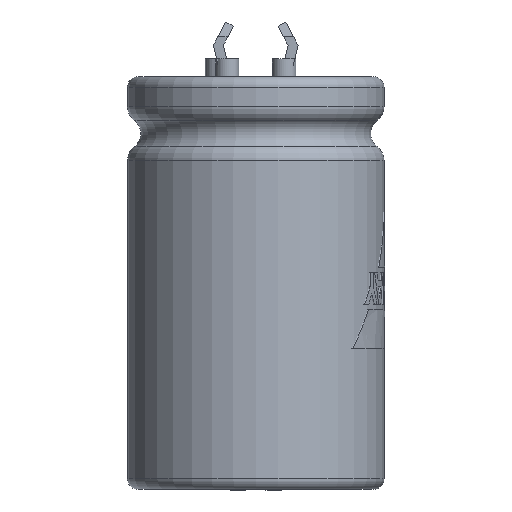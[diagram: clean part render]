
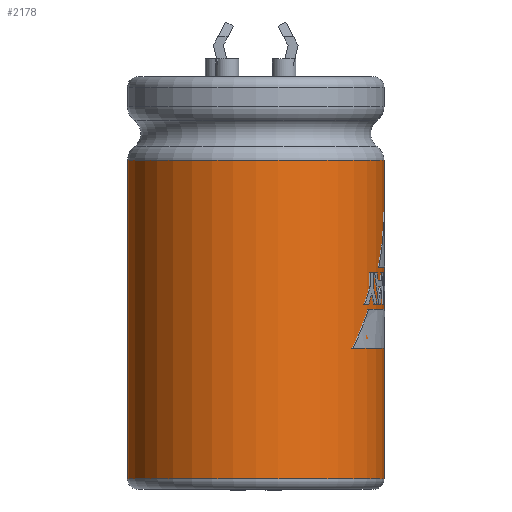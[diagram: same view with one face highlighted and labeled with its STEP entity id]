
A CAD part, left-side view. The second image highlights one B-rep face of the part: STEP entity #2178.
In plain terms, the highlighted cylindrical face has radius 11.5 mm (diameter 23 mm), a full revolution.
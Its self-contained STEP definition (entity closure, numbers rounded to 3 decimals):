
#2110 = TOROIDAL_SURFACE('',#2111,10.,1.5);
#2111 = AXIS2_PLACEMENT_3D('',#2112,#2113,#2114);
#2112 = CARTESIAN_POINT('',(0.,0.,-6.55));
#2113 = DIRECTION('',(0.,0.,1.));
#2114 = DIRECTION('',(1.,0.,0.));
#2126 = EDGE_CURVE('',#2127,#2127,#2129,.T.);
#2127 = VERTEX_POINT('',#2128);
#2128 = CARTESIAN_POINT('',(11.5,0.,-6.55));
#2129 = SURFACE_CURVE('',#2130,(#2135,#2142),.PCURVE_S1.);
#2130 = CIRCLE('',#2131,11.5);
#2131 = AXIS2_PLACEMENT_3D('',#2132,#2133,#2134);
#2132 = CARTESIAN_POINT('',(0.,0.,-6.55));
#2133 = DIRECTION('',(0.,0.,1.));
#2134 = DIRECTION('',(1.,0.,0.));
#2135 = PCURVE('',#2110,#2136);
#2136 = DEFINITIONAL_REPRESENTATION('',(#2137),#2141);
#2137 = LINE('',#2138,#2139);
#2138 = CARTESIAN_POINT('',(0.,6.283));
#2139 = VECTOR('',#2140,1.);
#2140 = DIRECTION('',(1.,0.));
#2141 = ( GEOMETRIC_REPRESENTATION_CONTEXT(2) 
PARAMETRIC_REPRESENTATION_CONTEXT() REPRESENTATION_CONTEXT('2D SPACE',''
  ) );
#2142 = PCURVE('',#2143,#2148);
#2143 = CYLINDRICAL_SURFACE('',#2144,11.5);
#2144 = AXIS2_PLACEMENT_3D('',#2145,#2146,#2147);
#2145 = CARTESIAN_POINT('',(0.,0.,-35.1));
#2146 = DIRECTION('',(0.,0.,1.));
#2147 = DIRECTION('',(1.,0.,0.));
#2148 = DEFINITIONAL_REPRESENTATION('',(#2149),#2153);
#2149 = LINE('',#2150,#2151);
#2150 = CARTESIAN_POINT('',(0.,28.55));
#2151 = VECTOR('',#2152,1.);
#2152 = DIRECTION('',(1.,0.));
#2153 = ( GEOMETRIC_REPRESENTATION_CONTEXT(2) 
PARAMETRIC_REPRESENTATION_CONTEXT() REPRESENTATION_CONTEXT('2D SPACE',''
  ) );
#2178 = ADVANCED_FACE('',(#2179),#2143,.T.);
#2179 = FACE_BOUND('',#2180,.T.);
#2180 = EDGE_LOOP('',(#2181,#2210,#2231,#2232));
#2181 = ORIENTED_EDGE('',*,*,#2182,.T.);
#2182 = EDGE_CURVE('',#2183,#2183,#2185,.T.);
#2183 = VERTEX_POINT('',#2184);
#2184 = CARTESIAN_POINT('',(11.5,0.,-35.1));
#2185 = SURFACE_CURVE('',#2186,(#2191,#2198),.PCURVE_S1.);
#2186 = CIRCLE('',#2187,11.5);
#2187 = AXIS2_PLACEMENT_3D('',#2188,#2189,#2190);
#2188 = CARTESIAN_POINT('',(0.,0.,-35.1));
#2189 = DIRECTION('',(0.,0.,1.));
#2190 = DIRECTION('',(1.,0.,0.));
#2191 = PCURVE('',#2143,#2192);
#2192 = DEFINITIONAL_REPRESENTATION('',(#2193),#2197);
#2193 = LINE('',#2194,#2195);
#2194 = CARTESIAN_POINT('',(0.,0.));
#2195 = VECTOR('',#2196,1.);
#2196 = DIRECTION('',(1.,0.));
#2197 = ( GEOMETRIC_REPRESENTATION_CONTEXT(2) 
PARAMETRIC_REPRESENTATION_CONTEXT() REPRESENTATION_CONTEXT('2D SPACE',''
  ) );
#2198 = PCURVE('',#2199,#2204);
#2199 = TOROIDAL_SURFACE('',#2200,10.55,0.95);
#2200 = AXIS2_PLACEMENT_3D('',#2201,#2202,#2203);
#2201 = CARTESIAN_POINT('',(0.,0.,-35.1));
#2202 = DIRECTION('',(0.,0.,1.));
#2203 = DIRECTION('',(1.,0.,0.));
#2204 = DEFINITIONAL_REPRESENTATION('',(#2205),#2209);
#2205 = LINE('',#2206,#2207);
#2206 = CARTESIAN_POINT('',(0.,6.283));
#2207 = VECTOR('',#2208,1.);
#2208 = DIRECTION('',(1.,0.));
#2209 = ( GEOMETRIC_REPRESENTATION_CONTEXT(2) 
PARAMETRIC_REPRESENTATION_CONTEXT() REPRESENTATION_CONTEXT('2D SPACE',''
  ) );
#2210 = ORIENTED_EDGE('',*,*,#2211,.T.);
#2211 = EDGE_CURVE('',#2183,#2127,#2212,.T.);
#2212 = SEAM_CURVE('',#2213,(#2217,#2224),.PCURVE_S1.);
#2213 = LINE('',#2214,#2215);
#2214 = CARTESIAN_POINT('',(11.5,0.,-35.1));
#2215 = VECTOR('',#2216,1.);
#2216 = DIRECTION('',(0.,0.,1.));
#2217 = PCURVE('',#2143,#2218);
#2218 = DEFINITIONAL_REPRESENTATION('',(#2219),#2223);
#2219 = LINE('',#2220,#2221);
#2220 = CARTESIAN_POINT('',(0.,0.));
#2221 = VECTOR('',#2222,1.);
#2222 = DIRECTION('',(0.,1.));
#2223 = ( GEOMETRIC_REPRESENTATION_CONTEXT(2) 
PARAMETRIC_REPRESENTATION_CONTEXT() REPRESENTATION_CONTEXT('2D SPACE',''
  ) );
#2224 = PCURVE('',#2143,#2225);
#2225 = DEFINITIONAL_REPRESENTATION('',(#2226),#2230);
#2226 = LINE('',#2227,#2228);
#2227 = CARTESIAN_POINT('',(6.283,0.));
#2228 = VECTOR('',#2229,1.);
#2229 = DIRECTION('',(0.,1.));
#2230 = ( GEOMETRIC_REPRESENTATION_CONTEXT(2) 
PARAMETRIC_REPRESENTATION_CONTEXT() REPRESENTATION_CONTEXT('2D SPACE',''
  ) );
#2231 = ORIENTED_EDGE('',*,*,#2126,.F.);
#2232 = ORIENTED_EDGE('',*,*,#2211,.F.);
